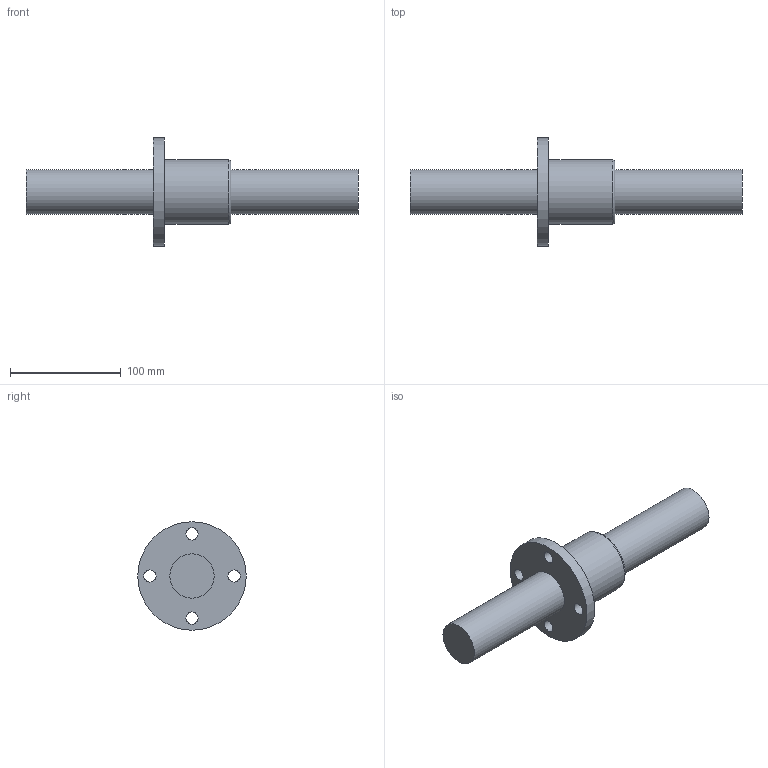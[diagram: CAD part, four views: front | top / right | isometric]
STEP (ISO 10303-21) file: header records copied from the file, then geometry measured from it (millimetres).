
FILE_DESCRIPTION((''),'2;1');
FILE_NAME('D:\製品 (図面)\カタログ用3D\ネジ関連\STEP形式\TMF\TMF40.stp','2010-06-02T15:12:08',('Tsuchiya'),(''),'Autodesk Inventor 10','Autodesk Inventor 10','');
FILE_SCHEMA(('AUTOMOTIVE_DESIGN { 1 0 10303 214 1 1 1 1 }'));
Length unit declared in the file: millimetre
Products named in the file (3): TMF40; TMF401; TMF402
Assembly tree (2 placements, depth 2):
  TMF40
    TMF401
    TMF402
Bounding box: 300 x 98 x 98 mm (x, y, z)
Volume: 519035.1 mm3; surface area: 76017.8 mm2
Topology: 2 solids, 2 shells, 15 faces, 32 edges, 22 vertices
Faces by surface type: cylinder 8, plane 5, torus 1, bspline 1
Full cylindrical faces by diameter (mm): 11 x4, 40 x2, 58 x1, 98 x1
Entity records: 470 total; most frequent: CARTESIAN_POINT 100, DIRECTION 74, AXIS2_PLACEMENT_3D 37, ORIENTED_EDGE 36, EDGE_LOOP 36, FACE_BOUND 21, VERTEX_POINT 18, CIRCLE 18
